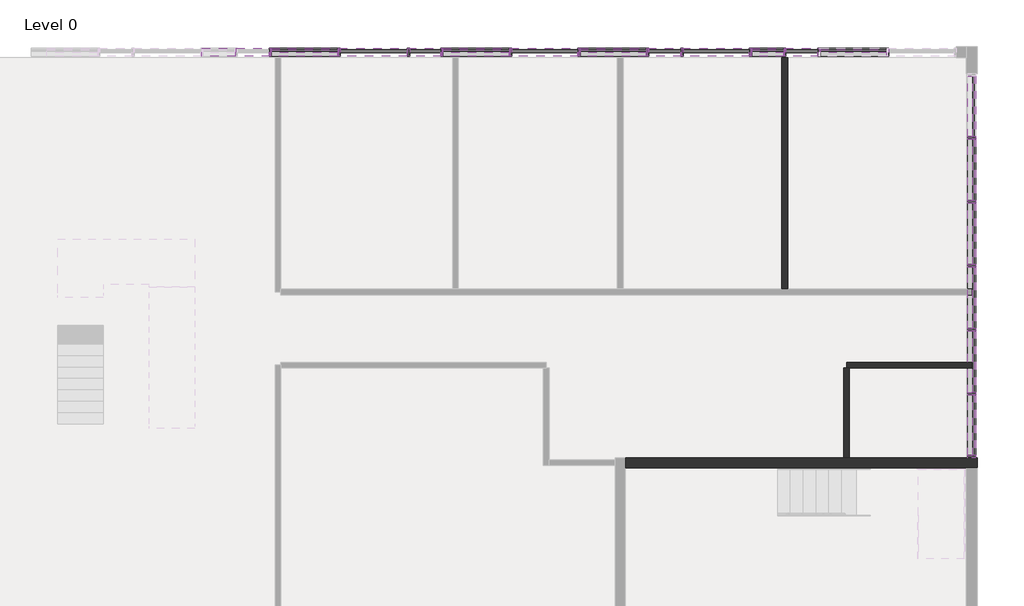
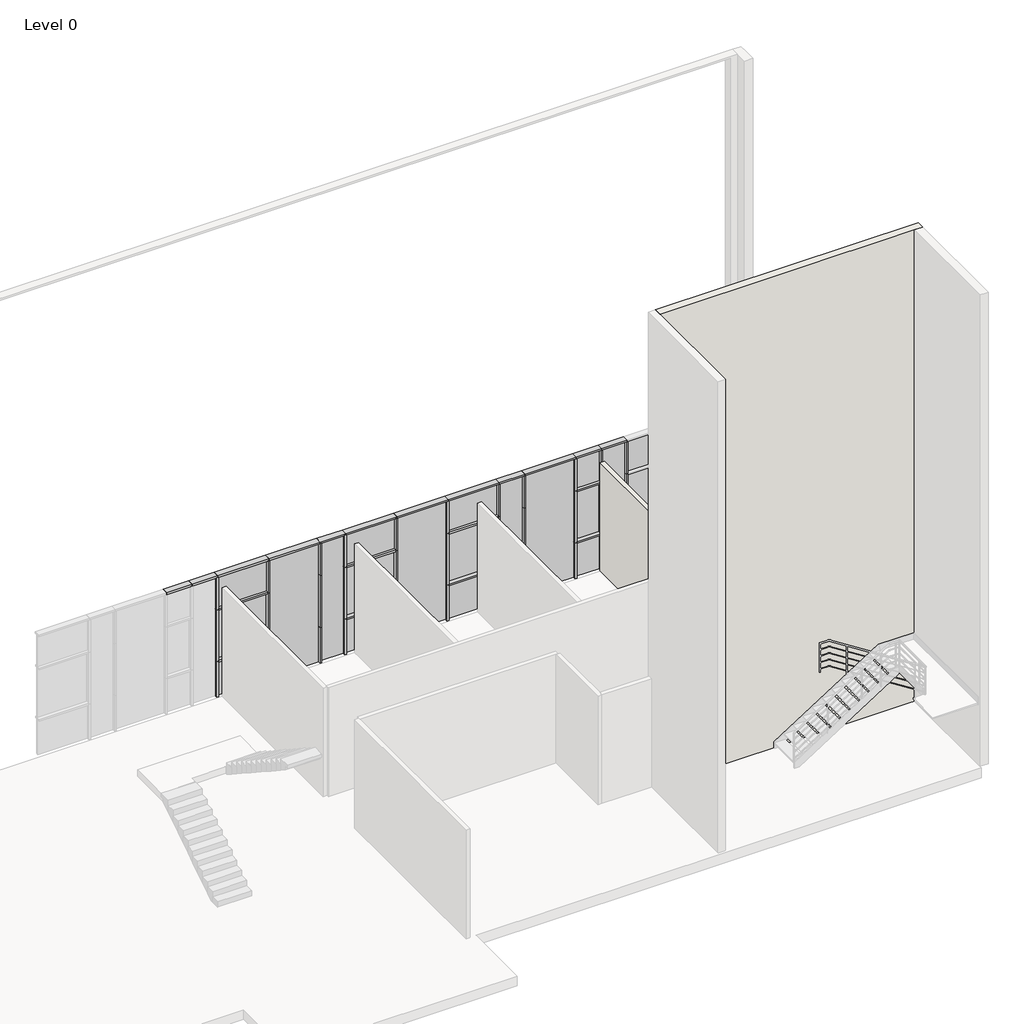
# One storey, part 7 of 10: 86 members, 33 plates, 4 walls.
"""IFC4 building model written with IfcOpenShell, lengths in millimetres."""

from ifc_helpers import new_model, si_unit, origin, origin_with_axes, place, context, project, spatial, polyline, outline, extrude, faceted_brep, transform, mapped, element, save
from components import rectangular_mullion_50x180mm_27940352, rectangular_mullion_50x180mm_f781141c, rectangular_mullion_50x180mm_fd91253e, rectangular_mullion_50x180mm_cfc9efda, rectangular_mullion_50x180mm_c30fec06, rectangular_mullion_50x180mm_55b63a96, rectangular_mullion_50x180mm_7153291d, rectangular_mullion_50x180mm_95299f7d, rectangular_mullion_50x180mm_f19e9633, rectangular_mullion_50x180mm_b6846536, rectangular_mullion_50x180mm_cd79a6a2, rectangular_mullion_50x180mm_b21090a6, rectangular_mullion_50x180mm_0f748c27, rectangular_mullion_50x180mm_51ec013b, rectangular_mullion_50x180mm_35a8cdd2, rectangular_mullion_50x180mm_f4f83200, rectangular_mullion_50x180mm_3158579c, rectangular_mullion_50x180mm_138657df, system_panel_black_panel_9c91f909, system_panel_black_panel_9e4711d2, system_panel_dark_grey_panel_1d6e0621, system_panel_dark_grey_panel_c47644bc, system_panel_glazed_dd63f223, system_panel_glazed_4915e1a0, system_panel_glazed_382bff3c, system_panel_glazed_04d9b068, system_panel_glazed_c834e0ad, system_panel_glazed_c24251bb, system_panel_white_panel_6a64f577, system_panel_white_panel_a9ca731a, system_panel_white_panel_6c6c8c82, system_panel_white_panel_ff540c20

model = new_model("IFC4")

# Units and contexts
model_context = context("Model", 3, world=origin())
ifc_project = project(units=[si_unit("LENGTHUNIT", "METRE", prefix="MILLI")], contexts=[model_context])

# Site, building, storey
site = spatial("IfcSite", under=ifc_project)
building = spatial("IfcBuilding", under=site)
storey = spatial("IfcBuildingStorey", under=building, Name="Level 0", Elevation=0.0)

# Members
placement = place(None, origin())
rectangular_mullion_50x180mm_shape = rectangular_mullion_50x180mm_27940352(model_context)
element("IfcMember", 1, ObjectType="Rectangular Mullion : 50x180mm", at=placement, inside=storey, context=model_context, shape_type="MappedRepresentation", body=[
    mapped(rectangular_mullion_50x180mm_shape, transform((37693.2942367, 9132.4946591, 0.0), x_axis=(1.0, 0.0, 0.0), y_axis=(0.0, -1.0, 0.0), z_axis=(0.0, 0.0, -1.0))),
])
element("IfcMember", 2, ObjectType="Rectangular Mullion : 50x180mm", at=placement, inside=storey, context=model_context, shape_type="MappedRepresentation", body=[
    mapped(rectangular_mullion_50x180mm_shape, transform((36193.2942367, 9132.4946591, 0.0), x_axis=(1.0, 0.0, 0.0), y_axis=(0.0, -1.0, 0.0), z_axis=(0.0, 0.0, -1.0))),
])
element("IfcMember", 3, ObjectType="Rectangular Mullion : 50x180mm", at=placement, inside=storey, context=model_context, shape_type="MappedRepresentation", body=[
    mapped(rectangular_mullion_50x180mm_shape, transform((35443.2942367, 9132.4946591, 0.0), x_axis=(1.0, 0.0, 0.0), y_axis=(0.0, -1.0, 0.0), z_axis=(0.0, 0.0, -1.0))),
])
element("IfcMember", 4, ObjectType="Rectangular Mullion : 50x180mm", at=placement, inside=storey, context=model_context, shape_type="MappedRepresentation", body=[
    mapped(rectangular_mullion_50x180mm_shape, transform((34693.2942367, 9132.4946591, 0.0), x_axis=(1.0, 0.0, 0.0), y_axis=(0.0, -1.0, 0.0), z_axis=(0.0, 0.0, -1.0))),
])
element("IfcMember", 5, ObjectType="Rectangular Mullion : 50x180mm", at=placement, inside=storey, context=model_context, shape_type="MappedRepresentation", body=[
    mapped(rectangular_mullion_50x180mm_shape, transform((32443.2942367, 9132.4946591, 0.0), x_axis=(1.0, 0.0, 0.0), y_axis=(0.0, -1.0, 0.0), z_axis=(0.0, 0.0, -1.0))),
])
element("IfcMember", 6, ObjectType="Rectangular Mullion : 50x180mm", at=placement, inside=storey, context=model_context, shape_type="MappedRepresentation", body=[
    mapped(rectangular_mullion_50x180mm_shape, transform((30943.2942367, 9132.4946591, 0.0), x_axis=(1.0, 0.0, 0.0), y_axis=(0.0, -1.0, 0.0), z_axis=(0.0, 0.0, -1.0))),
])
element("IfcMember", 7, ObjectType="Rectangular Mullion : 50x180mm", at=placement, inside=storey, context=model_context, shape_type="MappedRepresentation", body=[
    mapped(rectangular_mullion_50x180mm_shape, transform((27943.2942367, 9132.4946591, 0.0), x_axis=(1.0, 0.0, 0.0), y_axis=(0.0, -1.0, 0.0), z_axis=(0.0, 0.0, -1.0))),
])
element("IfcMember", 8, ObjectType="Rectangular Mullion : 50x180mm", at=placement, inside=storey, context=model_context, shape_type="MappedRepresentation", body=[
    mapped(rectangular_mullion_50x180mm_shape, transform((29443.2942367, 9132.4946591, 0.0), x_axis=(1.0, 0.0, 0.0), y_axis=(0.0, -1.0, 0.0), z_axis=(0.0, 0.0, -1.0))),
])
element("IfcMember", 9, ObjectType="Rectangular Mullion : 50x180mm", at=placement, inside=storey, context=model_context, shape_type="MappedRepresentation", body=[
    mapped(rectangular_mullion_50x180mm_shape, transform((25693.2942367, 9132.4946591, 0.0), x_axis=(1.0, 0.0, 0.0), y_axis=(0.0, -1.0, 0.0), z_axis=(0.0, 0.0, -1.0))),
])
element("IfcMember", 10, ObjectType="Rectangular Mullion : 50x180mm", at=placement, inside=storey, context=model_context, shape_type="MappedRepresentation", body=[
    mapped(rectangular_mullion_50x180mm_shape, transform((24193.2942367, 9132.4946591, 0.0), x_axis=(1.0, 0.0, 0.0), y_axis=(0.0, -1.0, 0.0), z_axis=(0.0, 0.0, -1.0))),
])
element("IfcMember", 11, ObjectType="Rectangular Mullion : 50x180mm", at=placement, inside=storey, context=model_context, shape_type="MappedRepresentation", body=[
    mapped(rectangular_mullion_50x180mm_shape, transform((33193.2942367, 9132.4946591, 0.0), x_axis=(1.0, 0.0, 0.0), y_axis=(0.0, -1.0, 0.0), z_axis=(0.0, 0.0, -1.0))),
])
rectangular_mullion_50x180mm_2_shape = rectangular_mullion_50x180mm_f781141c(model_context)
element("IfcMember", 12, ObjectType="Rectangular Mullion : 50x180mm", at=placement, inside=storey, context=model_context, shape_type="MappedRepresentation", body=[
    mapped(rectangular_mullion_50x180mm_2_shape, transform((27943.2942367, 9132.4946591, 1100.0), x_axis=(1.0, 0.0, 0.0), y_axis=(0.0, -1.0, 0.0), z_axis=(0.0, 0.0, -1.0))),
])
element("IfcMember", 13, ObjectType="Rectangular Mullion : 50x180mm", at=placement, inside=storey, context=model_context, shape_type="MappedRepresentation", body=[
    mapped(rectangular_mullion_50x180mm_2_shape, transform((29443.2942367, 9132.4946591, 1100.0), x_axis=(1.0, 0.0, 0.0), y_axis=(0.0, -1.0, 0.0), z_axis=(0.0, 0.0, -1.0))),
])
element("IfcMember", 14, ObjectType="Rectangular Mullion : 50x180mm", at=placement, inside=storey, context=model_context, shape_type="MappedRepresentation", body=[
    mapped(rectangular_mullion_50x180mm_2_shape, transform((30943.2942367, 9132.4946591, 1100.0), x_axis=(1.0, 0.0, 0.0), y_axis=(0.0, -1.0, 0.0), z_axis=(0.0, 0.0, -1.0))),
])
element("IfcMember", 15, ObjectType="Rectangular Mullion : 50x180mm", at=placement, inside=storey, context=model_context, shape_type="MappedRepresentation", body=[
    mapped(rectangular_mullion_50x180mm_2_shape, transform((32443.2942367, 9132.4946591, 1100.0), x_axis=(1.0, 0.0, 0.0), y_axis=(0.0, -1.0, 0.0), z_axis=(0.0, 0.0, -1.0))),
])
element("IfcMember", 16, ObjectType="Rectangular Mullion : 50x180mm", at=placement, inside=storey, context=model_context, shape_type="MappedRepresentation", body=[
    mapped(rectangular_mullion_50x180mm_2_shape, transform((34693.2942367, 9132.4946591, 1100.0), x_axis=(1.0, 0.0, 0.0), y_axis=(0.0, -1.0, 0.0), z_axis=(0.0, 0.0, -1.0))),
])
element("IfcMember", 17, ObjectType="Rectangular Mullion : 50x180mm", at=placement, inside=storey, context=model_context, shape_type="MappedRepresentation", body=[
    mapped(rectangular_mullion_50x180mm_2_shape, transform((35443.2942367, 9132.4946591, 1100.0), x_axis=(1.0, 0.0, 0.0), y_axis=(0.0, -1.0, 0.0), z_axis=(0.0, 0.0, -1.0))),
])
element("IfcMember", 18, ObjectType="Rectangular Mullion : 50x180mm", at=placement, inside=storey, context=model_context, shape_type="MappedRepresentation", body=[
    mapped(rectangular_mullion_50x180mm_2_shape, transform((36193.2942367, 9132.4946591, 1100.0), x_axis=(1.0, 0.0, 0.0), y_axis=(0.0, -1.0, 0.0), z_axis=(0.0, 0.0, -1.0))),
])
element("IfcMember", 19, ObjectType="Rectangular Mullion : 50x180mm", at=placement, inside=storey, context=model_context, shape_type="MappedRepresentation", body=[
    mapped(rectangular_mullion_50x180mm_2_shape, transform((37693.2942367, 9132.4946591, 1100.0), x_axis=(1.0, 0.0, 0.0), y_axis=(0.0, -1.0, 0.0), z_axis=(0.0, 0.0, -1.0))),
])
element("IfcMember", 20, ObjectType="Rectangular Mullion : 50x180mm", at=placement, inside=storey, context=model_context, shape_type="MappedRepresentation", body=[
    mapped(rectangular_mullion_50x180mm_2_shape, transform((24193.2942367, 9132.4946591, 1100.0), x_axis=(1.0, 0.0, 0.0), y_axis=(0.0, -1.0, 0.0), z_axis=(0.0, 0.0, -1.0))),
])
element("IfcMember", 21, ObjectType="Rectangular Mullion : 50x180mm", at=placement, inside=storey, context=model_context, shape_type="MappedRepresentation", body=[
    mapped(rectangular_mullion_50x180mm_2_shape, transform((25693.2942367, 9132.4946591, 1100.0), x_axis=(1.0, 0.0, 0.0), y_axis=(0.0, -1.0, 0.0), z_axis=(0.0, 0.0, -1.0))),
])
element("IfcMember", 22, ObjectType="Rectangular Mullion : 50x180mm", at=placement, inside=storey, context=model_context, shape_type="MappedRepresentation", body=[
    mapped(rectangular_mullion_50x180mm_2_shape, transform((33193.2942367, 9132.4946591, 1100.0), x_axis=(1.0, 0.0, 0.0), y_axis=(0.0, -1.0, 0.0), z_axis=(0.0, 0.0, -1.0))),
])
rectangular_mullion_50x180mm_3_shape = rectangular_mullion_50x180mm_fd91253e(model_context)
element("IfcMember", 23, ObjectType="Rectangular Mullion : 50x180mm", at=placement, inside=storey, context=model_context, shape_type="MappedRepresentation", body=[
    mapped(rectangular_mullion_50x180mm_3_shape, transform((37668.2942367, 9132.4946591, 1100.0), x_axis=(0.0, 0.0, 1.0), y_axis=(0.0, -1.0, 0.0), z_axis=(1.0, 0.0, 0.0))),
])
element("IfcMember", 24, ObjectType="Rectangular Mullion : 50x180mm", at=placement, inside=storey, context=model_context, shape_type="MappedRepresentation", body=[
    mapped(rectangular_mullion_50x180mm_3_shape, transform((29418.2942367, 9132.4946591, 1100.0), x_axis=(0.0, 0.0, 1.0), y_axis=(0.0, -1.0, 0.0), z_axis=(1.0, 0.0, 0.0))),
])
element("IfcMember", 25, ObjectType="Rectangular Mullion : 50x180mm", at=placement, inside=storey, context=model_context, shape_type="MappedRepresentation", body=[
    mapped(rectangular_mullion_50x180mm_3_shape, transform((32418.2942367, 9132.4946591, 1100.0), x_axis=(0.0, 0.0, 1.0), y_axis=(0.0, -1.0, 0.0), z_axis=(1.0, 0.0, 0.0))),
])
element("IfcMember", 26, ObjectType="Rectangular Mullion : 50x180mm", at=placement, inside=storey, context=model_context, shape_type="MappedRepresentation", body=[
    mapped(rectangular_mullion_50x180mm_3_shape, transform((29418.2942367, 9132.4946591, 2700.0), x_axis=(0.0, 0.0, 1.0), y_axis=(0.0, -1.0, 0.0), z_axis=(1.0, 0.0, 0.0))),
])
element("IfcMember", 27, ObjectType="Rectangular Mullion : 50x180mm", at=placement, inside=storey, context=model_context, shape_type="MappedRepresentation", body=[
    mapped(rectangular_mullion_50x180mm_3_shape, transform((32418.2942367, 9132.4946591, 2700.0), x_axis=(0.0, 0.0, 1.0), y_axis=(0.0, -1.0, 0.0), z_axis=(1.0, 0.0, 0.0))),
])
element("IfcMember", 28, ObjectType="Rectangular Mullion : 50x180mm", at=placement, inside=storey, context=model_context, shape_type="MappedRepresentation", body=[
    mapped(rectangular_mullion_50x180mm_3_shape, transform((25668.2942367, 9132.4946591, 1100.0), x_axis=(0.0, 0.0, 1.0), y_axis=(0.0, -1.0, 0.0), z_axis=(1.0, 0.0, 0.0))),
])
element("IfcMember", 29, ObjectType="Rectangular Mullion : 50x180mm", at=placement, inside=storey, context=model_context, shape_type="MappedRepresentation", body=[
    mapped(rectangular_mullion_50x180mm_3_shape, transform((25668.2942367, 9132.4946591, 2700.0), x_axis=(0.0, 0.0, 1.0), y_axis=(0.0, -1.0, 0.0), z_axis=(1.0, 0.0, 0.0))),
])
rectangular_mullion_50x180mm_4_shape = rectangular_mullion_50x180mm_cfc9efda(model_context)
element("IfcMember", 30, ObjectType="Rectangular Mullion : 50x180mm", at=placement, inside=storey, context=model_context, shape_type="MappedRepresentation", body=[
    mapped(rectangular_mullion_50x180mm_4_shape, transform((35418.2942367, 9132.4946591, 2700.0), x_axis=(0.0, 0.0, 1.0), y_axis=(0.0, -1.0, 0.0), z_axis=(1.0, 0.0, 0.0))),
])
element("IfcMember", 31, ObjectType="Rectangular Mullion : 50x180mm", at=placement, inside=storey, context=model_context, shape_type="MappedRepresentation", body=[
    mapped(rectangular_mullion_50x180mm_4_shape, transform((35418.2942367, 9132.4946591, 1100.0), x_axis=(0.0, 0.0, 1.0), y_axis=(0.0, -1.0, 0.0), z_axis=(1.0, 0.0, 0.0))),
])
rectangular_mullion_50x180mm_5_shape = rectangular_mullion_50x180mm_c30fec06(model_context)
element("IfcMember", 32, ObjectType="Rectangular Mullion : 50x180mm", at=placement, inside=storey, context=model_context, shape_type="MappedRepresentation", body=[
    mapped(rectangular_mullion_50x180mm_5_shape, transform((29443.2942367, 9132.4946591, 3750.0), x_axis=(0.0, 0.0, 1.0), y_axis=(0.0, -1.0, 0.0), z_axis=(1.0, 0.0, 0.0))),
])
element("IfcMember", 33, ObjectType="Rectangular Mullion : 50x180mm", at=placement, inside=storey, context=model_context, shape_type="MappedRepresentation", body=[
    mapped(rectangular_mullion_50x180mm_5_shape, transform((30943.2942367, 9132.4946591, 3750.0), x_axis=(0.0, 0.0, 1.0), y_axis=(0.0, -1.0, 0.0), z_axis=(1.0, 0.0, 0.0))),
])
element("IfcMember", 34, ObjectType="Rectangular Mullion : 50x180mm", at=placement, inside=storey, context=model_context, shape_type="MappedRepresentation", body=[
    mapped(rectangular_mullion_50x180mm_5_shape, transform((32443.2942367, 9132.4946591, 3750.0), x_axis=(0.0, 0.0, 1.0), y_axis=(0.0, -1.0, 0.0), z_axis=(1.0, 0.0, 0.0))),
])
element("IfcMember", 35, ObjectType="Rectangular Mullion : 50x180mm", at=placement, inside=storey, context=model_context, shape_type="MappedRepresentation", body=[
    mapped(rectangular_mullion_50x180mm_5_shape, transform((34693.2942367, 9132.4946591, 3750.0), x_axis=(0.0, 0.0, 1.0), y_axis=(0.0, -1.0, 0.0), z_axis=(1.0, 0.0, 0.0))),
])
element("IfcMember", 36, ObjectType="Rectangular Mullion : 50x180mm", at=placement, inside=storey, context=model_context, shape_type="MappedRepresentation", body=[
    mapped(rectangular_mullion_50x180mm_5_shape, transform((25693.2942367, 9132.4946591, 3750.0), x_axis=(0.0, 0.0, 1.0), y_axis=(0.0, -1.0, 0.0), z_axis=(1.0, 0.0, 0.0))),
])
rectangular_mullion_50x180mm_6_shape = rectangular_mullion_50x180mm_55b63a96(model_context)
element("IfcMember", 37, ObjectType="Rectangular Mullion : 50x180mm", at=placement, inside=storey, context=model_context, shape_type="MappedRepresentation", body=[
    mapped(rectangular_mullion_50x180mm_6_shape, transform((27943.2942367, 9132.4946591, 3750.0), x_axis=(0.0, 0.0, 1.0), y_axis=(0.0, -1.0, 0.0), z_axis=(1.0, 0.0, 0.0))),
])
element("IfcMember", 38, ObjectType="Rectangular Mullion : 50x180mm", at=placement, inside=storey, context=model_context, shape_type="MappedRepresentation", body=[
    mapped(rectangular_mullion_50x180mm_5_shape, transform((27193.2942367, 9132.4946591, 3750.0), x_axis=(0.0, 0.0, 1.0), y_axis=(0.0, -1.0, 0.0), z_axis=(1.0, 0.0, 0.0))),
])
element("IfcMember", 39, ObjectType="Rectangular Mullion : 50x180mm", at=placement, inside=storey, context=model_context, shape_type="MappedRepresentation", body=[
    mapped(rectangular_mullion_50x180mm_6_shape, transform((33193.2942367, 9132.4946591, 3750.0), x_axis=(0.0, 0.0, 1.0), y_axis=(0.0, -1.0, 0.0), z_axis=(1.0, 0.0, 0.0))),
])
element("IfcMember", 40, ObjectType="Rectangular Mullion : 50x180mm", at=placement, inside=storey, context=model_context, shape_type="MappedRepresentation", body=[
    mapped(rectangular_mullion_50x180mm_6_shape, transform((35443.2942367, 9132.4946591, 3750.0), x_axis=(0.0, 0.0, 1.0), y_axis=(0.0, -1.0, 0.0), z_axis=(1.0, 0.0, 0.0))),
])
element("IfcMember", 41, ObjectType="Rectangular Mullion : 50x180mm", at=placement, inside=storey, context=model_context, shape_type="MappedRepresentation", body=[
    mapped(rectangular_mullion_50x180mm_6_shape, transform((36193.2942367, 9132.4946591, 3750.0), x_axis=(0.0, 0.0, 1.0), y_axis=(0.0, -1.0, 0.0), z_axis=(1.0, 0.0, 0.0))),
])
element("IfcMember", 42, ObjectType="Rectangular Mullion : 50x180mm", at=placement, inside=storey, context=model_context, shape_type="MappedRepresentation", body=[
    mapped(rectangular_mullion_50x180mm_6_shape, transform((23443.2942367, 9132.4946591, 3750.0), x_axis=(0.0, 0.0, 1.0), y_axis=(0.0, -1.0, 0.0), z_axis=(1.0, 0.0, 0.0))),
])
element("IfcMember", 43, ObjectType="Rectangular Mullion : 50x180mm", at=placement, inside=storey, context=model_context, shape_type="MappedRepresentation", body=[
    mapped(rectangular_mullion_50x180mm_6_shape, transform((24193.2942367, 9132.4946591, 3750.0), x_axis=(0.0, 0.0, 1.0), y_axis=(0.0, -1.0, 0.0), z_axis=(1.0, 0.0, 0.0))),
])
rectangular_mullion_50x180mm_7_shape = rectangular_mullion_50x180mm_7153291d(model_context)
element("IfcMember", 44, ObjectType="Rectangular Mullion : 50x180mm", at=placement, inside=storey, context=model_context, shape_type="MappedRepresentation", body=[
    mapped(rectangular_mullion_50x180mm_7_shape, transform((27193.2942367, 9132.4946591, 1100.0), x_axis=(-1.0, 0.0, 0.0), y_axis=(0.0, -1.0, 0.0), z_axis=(0.0, 0.0, 1.0))),
])
rectangular_mullion_50x180mm_8_shape = rectangular_mullion_50x180mm_95299f7d(model_context)
element("IfcMember", 45, ObjectType="Rectangular Mullion : 50x180mm", at=placement, inside=storey, context=model_context, shape_type="MappedRepresentation", body=[
    mapped(rectangular_mullion_50x180mm_8_shape, transform((27193.2942367, 9132.4946591, 2700.0), x_axis=(-1.0, 0.0, 0.0), y_axis=(0.0, -1.0, 0.0), z_axis=(0.0, 0.0, 1.0))),
])
rectangular_mullion_50x180mm_9_shape = rectangular_mullion_50x180mm_f19e9633(model_context)
element("IfcMember", 46, ObjectType="Rectangular Mullion : 50x180mm", at=placement, inside=storey, context=model_context, shape_type="MappedRepresentation", body=[
    mapped(rectangular_mullion_50x180mm_9_shape, transform((34693.2942367, 9132.4946591, 2700.0), x_axis=(1.0, 0.0, 0.0), y_axis=(0.0, -1.0, 0.0), z_axis=(0.0, 0.0, -1.0))),
])
element("IfcMember", 47, ObjectType="Rectangular Mullion : 50x180mm", at=placement, inside=storey, context=model_context, shape_type="MappedRepresentation", body=[
    mapped(rectangular_mullion_50x180mm_9_shape, transform((35443.2942367, 9132.4946591, 2700.0), x_axis=(1.0, 0.0, 0.0), y_axis=(0.0, -1.0, 0.0), z_axis=(0.0, 0.0, -1.0))),
])
element("IfcMember", 48, ObjectType="Rectangular Mullion : 50x180mm", at=placement, inside=storey, context=model_context, shape_type="MappedRepresentation", body=[
    mapped(rectangular_mullion_50x180mm_9_shape, transform((36193.2942367, 9132.4946591, 2700.0), x_axis=(1.0, 0.0, 0.0), y_axis=(0.0, -1.0, 0.0), z_axis=(0.0, 0.0, -1.0))),
])
element("IfcMember", 49, ObjectType="Rectangular Mullion : 50x180mm", at=placement, inside=storey, context=model_context, shape_type="MappedRepresentation", body=[
    mapped(rectangular_mullion_50x180mm_9_shape, transform((37693.2942367, 9132.4946591, 2700.0), x_axis=(1.0, 0.0, 0.0), y_axis=(0.0, -1.0, 0.0), z_axis=(0.0, 0.0, -1.0))),
])
element("IfcMember", 50, ObjectType="Rectangular Mullion : 50x180mm", at=placement, inside=storey, context=model_context, shape_type="MappedRepresentation", body=[
    mapped(rectangular_mullion_50x180mm_9_shape, transform((32443.2942367, 9132.4946591, 2700.0), x_axis=(1.0, 0.0, 0.0), y_axis=(0.0, -1.0, 0.0), z_axis=(0.0, 0.0, -1.0))),
])
element("IfcMember", 51, ObjectType="Rectangular Mullion : 50x180mm", at=placement, inside=storey, context=model_context, shape_type="MappedRepresentation", body=[
    mapped(rectangular_mullion_50x180mm_9_shape, transform((30943.2942367, 9132.4946591, 2700.0), x_axis=(1.0, 0.0, 0.0), y_axis=(0.0, -1.0, 0.0), z_axis=(0.0, 0.0, -1.0))),
])
element("IfcMember", 52, ObjectType="Rectangular Mullion : 50x180mm", at=placement, inside=storey, context=model_context, shape_type="MappedRepresentation", body=[
    mapped(rectangular_mullion_50x180mm_9_shape, transform((27943.2942367, 9132.4946591, 2700.0), x_axis=(1.0, 0.0, 0.0), y_axis=(0.0, -1.0, 0.0), z_axis=(0.0, 0.0, -1.0))),
])
element("IfcMember", 53, ObjectType="Rectangular Mullion : 50x180mm", at=placement, inside=storey, context=model_context, shape_type="MappedRepresentation", body=[
    mapped(rectangular_mullion_50x180mm_9_shape, transform((29443.2942367, 9132.4946591, 2700.0), x_axis=(1.0, 0.0, 0.0), y_axis=(0.0, -1.0, 0.0), z_axis=(0.0, 0.0, -1.0))),
])
element("IfcMember", 54, ObjectType="Rectangular Mullion : 50x180mm", at=placement, inside=storey, context=model_context, shape_type="MappedRepresentation", body=[
    mapped(rectangular_mullion_50x180mm_9_shape, transform((24193.2942367, 9132.4946591, 2700.0), x_axis=(1.0, 0.0, 0.0), y_axis=(0.0, -1.0, 0.0), z_axis=(0.0, 0.0, -1.0))),
])
element("IfcMember", 55, ObjectType="Rectangular Mullion : 50x180mm", at=placement, inside=storey, context=model_context, shape_type="MappedRepresentation", body=[
    mapped(rectangular_mullion_50x180mm_9_shape, transform((25693.2942367, 9132.4946591, 2700.0), x_axis=(1.0, 0.0, 0.0), y_axis=(0.0, -1.0, 0.0), z_axis=(0.0, 0.0, -1.0))),
])
element("IfcMember", 56, ObjectType="Rectangular Mullion : 50x180mm", at=placement, inside=storey, context=model_context, shape_type="MappedRepresentation", body=[
    mapped(rectangular_mullion_50x180mm_9_shape, transform((33193.2942367, 9132.4946591, 2700.0), x_axis=(1.0, 0.0, 0.0), y_axis=(0.0, -1.0, 0.0), z_axis=(0.0, 0.0, -1.0))),
])
rectangular_mullion_50x180mm_10_shape = rectangular_mullion_50x180mm_b6846536(model_context)
element("IfcMember", 57, ObjectType="Rectangular Mullion : 50x180mm", at=placement, inside=storey, context=model_context, shape_type="MappedRepresentation", body=[
    mapped(rectangular_mullion_50x180mm_10_shape, transform((27193.2942367, 9132.4946591, 3700.0), x_axis=(-1.0, 0.0, 0.0), y_axis=(0.0, -1.0, 0.0), z_axis=(0.0, 0.0, 1.0))),
])
rectangular_mullion_50x180mm_11_shape = rectangular_mullion_50x180mm_cd79a6a2(model_context)
element("IfcMember", 58, ObjectType="Rectangular Mullion : 50x180mm", at=placement, inside=storey, context=model_context, shape_type="MappedRepresentation", body=[
    mapped(rectangular_mullion_50x180mm_11_shape, transform((39530.7942367, 7257.3793073, 150.0), x_axis=(0.0, -1.0, 0.0), y_axis=(-1.0, 0.0, 0.0), z_axis=(0.0, 0.0, -1.0))),
])
element("IfcMember", 59, ObjectType="Rectangular Mullion : 50x180mm", at=placement, inside=storey, context=model_context, shape_type="MappedRepresentation", body=[
    mapped(rectangular_mullion_50x180mm_11_shape, transform((39530.7942367, 5857.2639557, 150.0), x_axis=(0.0, -1.0, 0.0), y_axis=(-1.0, 0.0, 0.0), z_axis=(0.0, 0.0, -1.0))),
])
element("IfcMember", 60, ObjectType="Rectangular Mullion : 50x180mm", at=placement, inside=storey, context=model_context, shape_type="MappedRepresentation", body=[
    mapped(rectangular_mullion_50x180mm_11_shape, transform((39530.7942367, 4457.1486042, 150.0), x_axis=(0.0, -1.0, 0.0), y_axis=(-1.0, 0.0, 0.0), z_axis=(0.0, 0.0, -1.0))),
])
element("IfcMember", 61, ObjectType="Rectangular Mullion : 50x180mm", at=placement, inside=storey, context=model_context, shape_type="MappedRepresentation", body=[
    mapped(rectangular_mullion_50x180mm_11_shape, transform((39530.7942367, 3057.0332526, 150.0), x_axis=(0.0, -1.0, 0.0), y_axis=(-1.0, 0.0, 0.0), z_axis=(0.0, 0.0, -1.0))),
])
element("IfcMember", 62, ObjectType="Rectangular Mullion : 50x180mm", at=placement, inside=storey, context=model_context, shape_type="MappedRepresentation", body=[
    mapped(rectangular_mullion_50x180mm_11_shape, transform((39530.7942367, 1656.917901, 150.0), x_axis=(0.0, -1.0, 0.0), y_axis=(-1.0, 0.0, 0.0), z_axis=(0.0, 0.0, -1.0))),
])
rectangular_mullion_50x180mm_12_shape = rectangular_mullion_50x180mm_b21090a6(model_context)
element("IfcMember", 63, ObjectType="Rectangular Mullion : 50x180mm", at=placement, inside=storey, context=model_context, shape_type="MappedRepresentation", body=[
    mapped(rectangular_mullion_50x180mm_12_shape, transform((39530.7942367, 256.8025492, 150.0), x_axis=(0.0, -1.0, 0.0), y_axis=(-1.0, 0.0, 0.0), z_axis=(0.0, 0.0, -1.0))),
])
rectangular_mullion_50x180mm_13_shape = rectangular_mullion_50x180mm_0f748c27(model_context)
element("IfcMember", 64, ObjectType="Rectangular Mullion : 50x180mm", at=placement, inside=storey, context=model_context, shape_type="MappedRepresentation", body=[
    mapped(rectangular_mullion_50x180mm_13_shape, transform((39530.7942367, 306.8025492, 3450.0), x_axis=(0.0, 0.0, 1.0), y_axis=(-1.0, 0.0, 0.0), z_axis=(0.0, -1.0, 0.0))),
])
element("IfcMember", 65, ObjectType="Rectangular Mullion : 50x180mm", at=placement, inside=storey, context=model_context, shape_type="MappedRepresentation", body=[
    mapped(rectangular_mullion_50x180mm_13_shape, transform((39530.7942367, 7282.3793073, 3450.0), x_axis=(0.0, 0.0, 1.0), y_axis=(-1.0, 0.0, 0.0), z_axis=(0.0, -1.0, 0.0))),
])
rectangular_mullion_50x180mm_14_shape = rectangular_mullion_50x180mm_51ec013b(model_context)
element("IfcMember", 66, ObjectType="Rectangular Mullion : 50x180mm", at=placement, inside=storey, context=model_context, shape_type="MappedRepresentation", body=[
    mapped(rectangular_mullion_50x180mm_14_shape, transform((39530.7942367, 5882.2639557, 3450.0), x_axis=(0.0, 0.0, 1.0), y_axis=(-1.0, 0.0, 0.0), z_axis=(0.0, -1.0, 0.0))),
])
element("IfcMember", 67, ObjectType="Rectangular Mullion : 50x180mm", at=placement, inside=storey, context=model_context, shape_type="MappedRepresentation", body=[
    mapped(rectangular_mullion_50x180mm_14_shape, transform((39530.7942367, 4482.1486042, 3450.0), x_axis=(0.0, 0.0, 1.0), y_axis=(-1.0, 0.0, 0.0), z_axis=(0.0, -1.0, 0.0))),
])
element("IfcMember", 68, ObjectType="Rectangular Mullion : 50x180mm", at=placement, inside=storey, context=model_context, shape_type="MappedRepresentation", body=[
    mapped(rectangular_mullion_50x180mm_14_shape, transform((39530.7942367, 3082.0332526, 3450.0), x_axis=(0.0, 0.0, 1.0), y_axis=(-1.0, 0.0, 0.0), z_axis=(0.0, -1.0, 0.0))),
])
element("IfcMember", 69, ObjectType="Rectangular Mullion : 50x180mm", at=placement, inside=storey, context=model_context, shape_type="MappedRepresentation", body=[
    mapped(rectangular_mullion_50x180mm_14_shape, transform((39530.7942367, 1681.917901, 3450.0), x_axis=(0.0, 0.0, 1.0), y_axis=(-1.0, 0.0, 0.0), z_axis=(0.0, -1.0, 0.0))),
])
element("IfcMember", 70, ObjectType="Rectangular Mullion : 50x180mm", at=placement, inside=storey, context=model_context, shape_type="MappedRepresentation", body=[
    mapped(rectangular_mullion_50x180mm_13_shape, transform((39530.7942367, 1631.917901, 150.0), x_axis=(0.0, 0.0, -1.0), y_axis=(-1.0, 0.0, 0.0), z_axis=(0.0, 1.0, 0.0))),
])
element("IfcMember", 71, ObjectType="Rectangular Mullion : 50x180mm", at=placement, inside=storey, context=model_context, shape_type="MappedRepresentation", body=[
    mapped(rectangular_mullion_50x180mm_14_shape, transform((39530.7942367, 7232.3793073, 150.0), x_axis=(0.0, 0.0, -1.0), y_axis=(-1.0, 0.0, 0.0), z_axis=(0.0, 1.0, 0.0))),
])
element("IfcMember", 72, ObjectType="Rectangular Mullion : 50x180mm", at=placement, inside=storey, context=model_context, shape_type="MappedRepresentation", body=[
    mapped(rectangular_mullion_50x180mm_14_shape, transform((39530.7942367, 5832.2639557, 150.0), x_axis=(0.0, 0.0, -1.0), y_axis=(-1.0, 0.0, 0.0), z_axis=(0.0, 1.0, 0.0))),
])
element("IfcMember", 73, ObjectType="Rectangular Mullion : 50x180mm", at=placement, inside=storey, context=model_context, shape_type="MappedRepresentation", body=[
    mapped(rectangular_mullion_50x180mm_14_shape, transform((39530.7942367, 4432.1486042, 150.0), x_axis=(0.0, 0.0, -1.0), y_axis=(-1.0, 0.0, 0.0), z_axis=(0.0, 1.0, 0.0))),
])
element("IfcMember", 74, ObjectType="Rectangular Mullion : 50x180mm", at=placement, inside=storey, context=model_context, shape_type="MappedRepresentation", body=[
    mapped(rectangular_mullion_50x180mm_14_shape, transform((39530.7942367, 3032.0332526, 150.0), x_axis=(0.0, 0.0, -1.0), y_axis=(-1.0, 0.0, 0.0), z_axis=(0.0, 1.0, 0.0))),
])
rectangular_mullion_50x180mm_15_shape = rectangular_mullion_50x180mm_35a8cdd2(model_context)
element("IfcMember", 75, ObjectType="Rectangular Mullion : 50x180mm", at=placement, inside=storey, context=model_context, shape_type="MappedRepresentation", body=[
    mapped(rectangular_mullion_50x180mm_15_shape, transform((39530.7942367, 7282.3793073, 2550.0), x_axis=(0.0, 0.0, 1.0), y_axis=(-1.0, 0.0, 0.0), z_axis=(0.0, -1.0, 0.0))),
])
element("IfcMember", 76, ObjectType="Rectangular Mullion : 50x180mm", at=placement, inside=storey, context=model_context, shape_type="MappedRepresentation", body=[
    mapped(rectangular_mullion_50x180mm_15_shape, transform((39530.7942367, 306.8025492, 2550.0), x_axis=(0.0, 0.0, 1.0), y_axis=(-1.0, 0.0, 0.0), z_axis=(0.0, -1.0, 0.0))),
])
rectangular_mullion_50x180mm_16_shape = rectangular_mullion_50x180mm_f4f83200(model_context)
element("IfcMember", 77, ObjectType="Rectangular Mullion : 50x180mm", at=placement, inside=storey, context=model_context, shape_type="MappedRepresentation", body=[
    mapped(rectangular_mullion_50x180mm_16_shape, transform((39530.7942367, 5882.2639557, 2550.0), x_axis=(0.0, 0.0, 1.0), y_axis=(-1.0, 0.0, 0.0), z_axis=(0.0, -1.0, 0.0))),
])
element("IfcMember", 78, ObjectType="Rectangular Mullion : 50x180mm", at=placement, inside=storey, context=model_context, shape_type="MappedRepresentation", body=[
    mapped(rectangular_mullion_50x180mm_16_shape, transform((39530.7942367, 4482.1486042, 2550.0), x_axis=(0.0, 0.0, 1.0), y_axis=(-1.0, 0.0, 0.0), z_axis=(0.0, -1.0, 0.0))),
])
element("IfcMember", 79, ObjectType="Rectangular Mullion : 50x180mm", at=placement, inside=storey, context=model_context, shape_type="MappedRepresentation", body=[
    mapped(rectangular_mullion_50x180mm_16_shape, transform((39530.7942367, 3082.0332526, 2550.0), x_axis=(0.0, 0.0, 1.0), y_axis=(-1.0, 0.0, 0.0), z_axis=(0.0, -1.0, 0.0))),
])
element("IfcMember", 80, ObjectType="Rectangular Mullion : 50x180mm", at=placement, inside=storey, context=model_context, shape_type="MappedRepresentation", body=[
    mapped(rectangular_mullion_50x180mm_16_shape, transform((39530.7942367, 1681.917901, 2550.0), x_axis=(0.0, 0.0, 1.0), y_axis=(-1.0, 0.0, 0.0), z_axis=(0.0, -1.0, 0.0))),
])
rectangular_mullion_50x180mm_17_shape = rectangular_mullion_50x180mm_3158579c(model_context)
element("IfcMember", 81, ObjectType="Rectangular Mullion : 50x180mm", at=placement, inside=storey, context=model_context, shape_type="MappedRepresentation", body=[
    mapped(rectangular_mullion_50x180mm_17_shape, transform((39530.7942367, 7257.3793073, 2550.0), x_axis=(0.0, -1.0, 0.0), y_axis=(-1.0, 0.0, 0.0), z_axis=(0.0, 0.0, -1.0))),
])
element("IfcMember", 82, ObjectType="Rectangular Mullion : 50x180mm", at=placement, inside=storey, context=model_context, shape_type="MappedRepresentation", body=[
    mapped(rectangular_mullion_50x180mm_17_shape, transform((39530.7942367, 5857.2639557, 2550.0), x_axis=(0.0, -1.0, 0.0), y_axis=(-1.0, 0.0, 0.0), z_axis=(0.0, 0.0, -1.0))),
])
element("IfcMember", 83, ObjectType="Rectangular Mullion : 50x180mm", at=placement, inside=storey, context=model_context, shape_type="MappedRepresentation", body=[
    mapped(rectangular_mullion_50x180mm_17_shape, transform((39530.7942367, 4457.1486042, 2550.0), x_axis=(0.0, -1.0, 0.0), y_axis=(-1.0, 0.0, 0.0), z_axis=(0.0, 0.0, -1.0))),
])
element("IfcMember", 84, ObjectType="Rectangular Mullion : 50x180mm", at=placement, inside=storey, context=model_context, shape_type="MappedRepresentation", body=[
    mapped(rectangular_mullion_50x180mm_17_shape, transform((39530.7942367, 3057.0332526, 2550.0), x_axis=(0.0, -1.0, 0.0), y_axis=(-1.0, 0.0, 0.0), z_axis=(0.0, 0.0, -1.0))),
])
element("IfcMember", 85, ObjectType="Rectangular Mullion : 50x180mm", at=placement, inside=storey, context=model_context, shape_type="MappedRepresentation", body=[
    mapped(rectangular_mullion_50x180mm_17_shape, transform((39530.7942367, 1656.917901, 2550.0), x_axis=(0.0, -1.0, 0.0), y_axis=(-1.0, 0.0, 0.0), z_axis=(0.0, 0.0, -1.0))),
])
rectangular_mullion_50x180mm_18_shape = rectangular_mullion_50x180mm_138657df(model_context)
element("IfcMember", 86, ObjectType="Rectangular Mullion : 50x180mm", at=placement, inside=storey, context=model_context, shape_type="MappedRepresentation", body=[
    mapped(rectangular_mullion_50x180mm_18_shape, transform((39530.7942367, 256.8025492, 2550.0), x_axis=(0.0, -1.0, 0.0), y_axis=(-1.0, 0.0, 0.0), z_axis=(0.0, 0.0, -1.0))),
])

# Plates
system_panel_black_panel_shape = system_panel_black_panel_9c91f909(model_context)
element("IfcPlate", 87, ObjectType="System Panel : Black-Panel", at=placement, inside=storey, context=model_context, shape_type="MappedRepresentation", body=[
    mapped(system_panel_black_panel_shape, transform((27580.7942367, 9132.4946591, 0.0), x_axis=(1.0, 0.0, 0.0), y_axis=(0.0, 1.0, 0.0), z_axis=(0.0, 0.0, 1.0))),
])
system_panel_black_panel_2_shape = system_panel_black_panel_9e4711d2(model_context)
element("IfcPlate", 88, ObjectType="System Panel : Black-Panel", at=placement, inside=storey, context=model_context, shape_type="MappedRepresentation", body=[
    mapped(system_panel_black_panel_2_shape, transform((35818.2942367, 9132.4946591, 0.0), x_axis=(1.0, 0.0, 0.0), y_axis=(0.0, 1.0, 0.0), z_axis=(0.0, 0.0, 1.0))),
])
element("IfcPlate", 89, ObjectType="System Panel : Black-Panel", at=placement, inside=storey, context=model_context, shape_type="MappedRepresentation", body=[
    mapped(system_panel_black_panel_2_shape, transform((32818.2942367, 9132.4946591, 0.0), x_axis=(1.0, 0.0, 0.0), y_axis=(0.0, 1.0, 0.0), z_axis=(0.0, 0.0, 1.0))),
])
system_panel_dark_grey_panel_shape = system_panel_dark_grey_panel_1d6e0621(model_context)
element("IfcPlate", 90, ObjectType="System Panel : Dark Grey-Panel", at=placement, inside=storey, context=model_context, shape_type="MappedRepresentation", body=[
    mapped(system_panel_dark_grey_panel_shape, transform((33943.2942367, 9132.4946591, 0.0), x_axis=(1.0, 0.0, 0.0), y_axis=(0.0, 1.0, 0.0), z_axis=(0.0, 0.0, 1.0))),
])
element("IfcPlate", 91, ObjectType="System Panel : Dark Grey-Panel", at=placement, inside=storey, context=model_context, shape_type="MappedRepresentation", body=[
    mapped(system_panel_dark_grey_panel_shape, transform((30193.2942367, 9132.4946591, 0.0), x_axis=(1.0, 0.0, 0.0), y_axis=(0.0, 1.0, 0.0), z_axis=(0.0, 0.0, 1.0))),
])
system_panel_dark_grey_panel_2_shape = system_panel_dark_grey_panel_c47644bc(model_context)
element("IfcPlate", 92, ObjectType="System Panel : Dark Grey-Panel", at=placement, inside=storey, context=model_context, shape_type="MappedRepresentation", body=[
    mapped(system_panel_dark_grey_panel_2_shape, transform((26455.7942367, 9132.4946591, 0.0), x_axis=(1.0, 0.0, 0.0), y_axis=(0.0, 1.0, 0.0), z_axis=(0.0, 0.0, 1.0))),
])
system_panel_glazed_shape = system_panel_glazed_dd63f223(model_context)
element("IfcPlate", 93, ObjectType="System Panel : Glazed", at=placement, inside=storey, context=model_context, shape_type="MappedRepresentation", body=[
    mapped(system_panel_glazed_shape, transform((35068.2942367, 9132.4946591, 1125.0), x_axis=(1.0, 0.0, 0.0), y_axis=(0.0, 1.0, 0.0), z_axis=(0.0, 0.0, 1.0))),
])
system_panel_glazed_2_shape = system_panel_glazed_4915e1a0(model_context)
element("IfcPlate", 94, ObjectType="System Panel : Glazed", at=placement, inside=storey, context=model_context, shape_type="MappedRepresentation", body=[
    mapped(system_panel_glazed_2_shape, transform((36943.2942367, 9132.4946591, 1125.0), x_axis=(1.0, 0.0, 0.0), y_axis=(0.0, 1.0, 0.0), z_axis=(0.0, 0.0, 1.0))),
])
element("IfcPlate", 95, ObjectType="System Panel : Glazed", at=placement, inside=storey, context=model_context, shape_type="MappedRepresentation", body=[
    mapped(system_panel_glazed_2_shape, transform((31693.2942367, 9132.4946591, 1125.0), x_axis=(1.0, 0.0, 0.0), y_axis=(0.0, 1.0, 0.0), z_axis=(0.0, 0.0, 1.0))),
])
element("IfcPlate", 96, ObjectType="System Panel : Glazed", at=placement, inside=storey, context=model_context, shape_type="MappedRepresentation", body=[
    mapped(system_panel_glazed_2_shape, transform((28693.2942367, 9132.4946591, 1125.0), x_axis=(1.0, 0.0, 0.0), y_axis=(0.0, 1.0, 0.0), z_axis=(0.0, 0.0, 1.0))),
])
element("IfcPlate", 97, ObjectType="System Panel : Glazed", at=placement, inside=storey, context=model_context, shape_type="MappedRepresentation", body=[
    mapped(system_panel_glazed_2_shape, transform((24943.2942367, 9132.4946591, 1125.0), x_axis=(1.0, 0.0, 0.0), y_axis=(0.0, 1.0, 0.0), z_axis=(0.0, 0.0, 1.0))),
])
system_panel_glazed_3_shape = system_panel_glazed_382bff3c(model_context)
element("IfcPlate", 98, ObjectType="System Panel : Glazed", at=placement, inside=storey, context=model_context, shape_type="MappedRepresentation", body=[
    mapped(system_panel_glazed_3_shape, transform((39530.7942367, 7944.9369832, 200.0), x_axis=(0.0, -1.0, 0.0), y_axis=(1.0, 0.0, 0.0), z_axis=(0.0, 0.0, 1.0))),
])
element("IfcPlate", 99, ObjectType="System Panel : Glazed", at=placement, inside=storey, context=model_context, shape_type="MappedRepresentation", body=[
    mapped(system_panel_glazed_3_shape, transform((39530.7942367, 969.3602251, 200.0), x_axis=(0.0, -1.0, 0.0), y_axis=(1.0, 0.0, 0.0), z_axis=(0.0, 0.0, 1.0))),
])
system_panel_glazed_4_shape = system_panel_glazed_04d9b068(model_context)
element("IfcPlate", 100, ObjectType="System Panel : Glazed", at=placement, inside=storey, context=model_context, shape_type="MappedRepresentation", body=[
    mapped(system_panel_glazed_4_shape, transform((39530.7942367, 6557.3216315, 200.0), x_axis=(0.0, -1.0, 0.0), y_axis=(1.0, 0.0, 0.0), z_axis=(0.0, 0.0, 1.0))),
])
element("IfcPlate", 101, ObjectType="System Panel : Glazed", at=placement, inside=storey, context=model_context, shape_type="MappedRepresentation", body=[
    mapped(system_panel_glazed_4_shape, transform((39530.7942367, 5157.2062799, 200.0), x_axis=(0.0, -1.0, 0.0), y_axis=(1.0, 0.0, 0.0), z_axis=(0.0, 0.0, 1.0))),
])
element("IfcPlate", 102, ObjectType="System Panel : Glazed", at=placement, inside=storey, context=model_context, shape_type="MappedRepresentation", body=[
    mapped(system_panel_glazed_4_shape, transform((39530.7942367, 3757.0909284, 200.0), x_axis=(0.0, -1.0, 0.0), y_axis=(1.0, 0.0, 0.0), z_axis=(0.0, 0.0, 1.0))),
])
element("IfcPlate", 103, ObjectType="System Panel : Glazed", at=placement, inside=storey, context=model_context, shape_type="MappedRepresentation", body=[
    mapped(system_panel_glazed_4_shape, transform((39530.7942367, 2356.9755768, 200.0), x_axis=(0.0, -1.0, 0.0), y_axis=(1.0, 0.0, 0.0), z_axis=(0.0, 0.0, 1.0))),
])
system_panel_glazed_5_shape = system_panel_glazed_c834e0ad(model_context)
element("IfcPlate", 104, ObjectType="System Panel : Glazed", at=placement, inside=storey, context=model_context, shape_type="MappedRepresentation", body=[
    mapped(system_panel_glazed_5_shape, transform((39530.7942367, 7944.9369832, 2575.0), x_axis=(0.0, -1.0, 0.0), y_axis=(1.0, 0.0, 0.0), z_axis=(0.0, 0.0, 1.0))),
])
element("IfcPlate", 105, ObjectType="System Panel : Glazed", at=placement, inside=storey, context=model_context, shape_type="MappedRepresentation", body=[
    mapped(system_panel_glazed_5_shape, transform((39530.7942367, 969.3602251, 2575.0), x_axis=(0.0, -1.0, 0.0), y_axis=(1.0, 0.0, 0.0), z_axis=(0.0, 0.0, 1.0))),
])
system_panel_glazed_6_shape = system_panel_glazed_c24251bb(model_context)
element("IfcPlate", 106, ObjectType="System Panel : Glazed", at=placement, inside=storey, context=model_context, shape_type="MappedRepresentation", body=[
    mapped(system_panel_glazed_6_shape, transform((39530.7942367, 6557.3216315, 2575.0), x_axis=(0.0, -1.0, 0.0), y_axis=(1.0, 0.0, 0.0), z_axis=(0.0, 0.0, 1.0))),
])
element("IfcPlate", 107, ObjectType="System Panel : Glazed", at=placement, inside=storey, context=model_context, shape_type="MappedRepresentation", body=[
    mapped(system_panel_glazed_6_shape, transform((39530.7942367, 5157.2062799, 2575.0), x_axis=(0.0, -1.0, 0.0), y_axis=(1.0, 0.0, 0.0), z_axis=(0.0, 0.0, 1.0))),
])
element("IfcPlate", 108, ObjectType="System Panel : Glazed", at=placement, inside=storey, context=model_context, shape_type="MappedRepresentation", body=[
    mapped(system_panel_glazed_6_shape, transform((39530.7942367, 3757.0909284, 2575.0), x_axis=(0.0, -1.0, 0.0), y_axis=(1.0, 0.0, 0.0), z_axis=(0.0, 0.0, 1.0))),
])
element("IfcPlate", 109, ObjectType="System Panel : Glazed", at=placement, inside=storey, context=model_context, shape_type="MappedRepresentation", body=[
    mapped(system_panel_glazed_6_shape, transform((39530.7942367, 2356.9755768, 2575.0), x_axis=(0.0, -1.0, 0.0), y_axis=(1.0, 0.0, 0.0), z_axis=(0.0, 0.0, 1.0))),
])
system_panel_white_panel_shape = system_panel_white_panel_6a64f577(model_context)
element("IfcPlate", 110, ObjectType="System Panel : White-Panel", at=placement, inside=storey, context=model_context, shape_type="MappedRepresentation", body=[
    mapped(system_panel_white_panel_shape, transform((36943.2942367, 9132.4946591, 0.0), x_axis=(1.0, 0.0, 0.0), y_axis=(0.0, 1.0, 0.0), z_axis=(0.0, 0.0, 1.0))),
])
element("IfcPlate", 111, ObjectType="System Panel : White-Panel", at=placement, inside=storey, context=model_context, shape_type="MappedRepresentation", body=[
    mapped(system_panel_white_panel_shape, transform((31693.2942367, 9132.4946591, 0.0), x_axis=(1.0, 0.0, 0.0), y_axis=(0.0, 1.0, 0.0), z_axis=(0.0, 0.0, 1.0))),
])
element("IfcPlate", 112, ObjectType="System Panel : White-Panel", at=placement, inside=storey, context=model_context, shape_type="MappedRepresentation", body=[
    mapped(system_panel_white_panel_shape, transform((28693.2942367, 9132.4946591, 0.0), x_axis=(1.0, 0.0, 0.0), y_axis=(0.0, 1.0, 0.0), z_axis=(0.0, 0.0, 1.0))),
])
element("IfcPlate", 113, ObjectType="System Panel : White-Panel", at=placement, inside=storey, context=model_context, shape_type="MappedRepresentation", body=[
    mapped(system_panel_white_panel_shape, transform((24943.2942367, 9132.4946591, 0.0), x_axis=(1.0, 0.0, 0.0), y_axis=(0.0, 1.0, 0.0), z_axis=(0.0, 0.0, 1.0))),
])
system_panel_white_panel_2_shape = system_panel_white_panel_a9ca731a(model_context)
element("IfcPlate", 114, ObjectType="System Panel : White-Panel", at=placement, inside=storey, context=model_context, shape_type="MappedRepresentation", body=[
    mapped(system_panel_white_panel_2_shape, transform((35068.2942367, 9132.4946591, 0.0), x_axis=(1.0, 0.0, 0.0), y_axis=(0.0, 1.0, 0.0), z_axis=(0.0, 0.0, 1.0))),
])
system_panel_white_panel_3_shape = system_panel_white_panel_6c6c8c82(model_context)
element("IfcPlate", 115, ObjectType="System Panel : White-Panel", at=placement, inside=storey, context=model_context, shape_type="MappedRepresentation", body=[
    mapped(system_panel_white_panel_3_shape, transform((35068.2942367, 9132.4946591, 2725.0), x_axis=(1.0, 0.0, 0.0), y_axis=(0.0, 1.0, 0.0), z_axis=(0.0, 0.0, 1.0))),
])
system_panel_white_panel_4_shape = system_panel_white_panel_ff540c20(model_context)
element("IfcPlate", 116, ObjectType="System Panel : White-Panel", at=placement, inside=storey, context=model_context, shape_type="MappedRepresentation", body=[
    mapped(system_panel_white_panel_4_shape, transform((36943.2942367, 9132.4946591, 2725.0), x_axis=(1.0, 0.0, 0.0), y_axis=(0.0, 1.0, 0.0), z_axis=(0.0, 0.0, 1.0))),
])
element("IfcPlate", 117, ObjectType="System Panel : White-Panel", at=placement, inside=storey, context=model_context, shape_type="MappedRepresentation", body=[
    mapped(system_panel_white_panel_4_shape, transform((31693.2942367, 9132.4946591, 2725.0), x_axis=(1.0, 0.0, 0.0), y_axis=(0.0, 1.0, 0.0), z_axis=(0.0, 0.0, 1.0))),
])
element("IfcPlate", 118, ObjectType="System Panel : White-Panel", at=placement, inside=storey, context=model_context, shape_type="MappedRepresentation", body=[
    mapped(system_panel_white_panel_4_shape, transform((28693.2942367, 9132.4946591, 2725.0), x_axis=(1.0, 0.0, 0.0), y_axis=(0.0, 1.0, 0.0), z_axis=(0.0, 0.0, 1.0))),
])
element("IfcPlate", 119, ObjectType="System Panel : White-Panel", at=placement, inside=storey, context=model_context, shape_type="MappedRepresentation", body=[
    mapped(system_panel_white_panel_4_shape, transform((24943.2942367, 9132.4946591, 2725.0), x_axis=(1.0, 0.0, 0.0), y_axis=(0.0, 1.0, 0.0), z_axis=(0.0, 0.0, 1.0))),
])

# Walls
element("IfcWall", 120, ObjectType="Wall-Ext_215Bwk", at=placement, inside=storey, context=model_context, shape_type="Brep", body=[
    faceted_brep([(31951.4942371, 41.8025492, 14600.0), (31951.4942371, 41.8025492, 0.0), (39405.7942367, 41.8025492, 0.0), (39655.7942367, 41.8025492, 0.0), (39655.7942367, 41.8025492, 14600.0), (39405.7942367, 41.8025492, 14600.0), (31951.4942371, 256.8025492, 0.0), (31951.4942371, 256.8025492, 14600.0), (39655.7942367, 256.8025492, 14600.0), (39655.7942367, 256.8025492, 14315.0), (39655.7942367, 256.8025492, 11000.0), (39655.7942367, 256.8025492, 10765.0), (39655.7942367, 256.8025492, 7450.0), (39655.7942367, 256.8025492, 7065.0), (39655.7942367, 256.8025492, 3750.0), (39655.7942367, 256.8025492, 0.0), (36855.7942367, 256.8025492, 0.0), (36730.7942367, 256.8025492, 0.0)], [[[0, 1, 2, 3, 4, 5]], [[6, 7, 8, 9, 10, 11, 12, 13, 14, 15, 16, 17]], [[3, 2, 1, 6, 17, 16, 15]], [[0, 5, 4, 8, 7]], [[0, 7, 6, 1]], [[3, 15, 14, 13, 12, 11, 10, 9, 8, 4]]]),
])
element("IfcWall", 121, ObjectType="Wall-Int_12P-100Blk-12P", at=placement, inside=storey, context=model_context, shape_type="Brep", body=[
    faceted_brep([(36730.7942367, 2222.4025502, 0.0), (36730.7942367, 256.8025492, 0.0), (36730.7942367, 256.8025492, 3365.0), (36730.7942367, 2222.4025502, 3365.0), (36855.7942367, 2222.4025502, 0.0), (36855.7942367, 2222.4025502, 3365.0), (36855.7942367, 256.8025492, 3365.0), (36855.7942367, 256.8025492, 0.0), (36793.2942367, 2222.4025502, 0.0), (36793.2942367, 2222.4025502, 3365.0)], [[[0, 1, 2, 3]], [[4, 5, 6, 7]], [[1, 0, 8, 4, 7]], [[3, 2, 6, 5, 9]], [[2, 1, 7, 6]], [[0, 3, 9, 5, 4, 8]]]),
])
element("IfcWall", 122, ObjectType="Wall-Int_12P-100Blk-12P", at=placement, inside=storey, context=model_context, shape_type="SweptSolid", body=[
    extrude(outline(polyline([(35505.7942367, 9007.4946591), (35505.7942367, 3947.4025502), (35380.7942367, 3947.4025502), (35380.7942367, 9007.4946591), (35505.7942367, 9007.4946591)])), origin_with_axes(), (0.0, 0.0, 1.0), 3365.0),
])
element("IfcWall", 123, ObjectType="Wall-Int_12P-100Blk-12P", at=placement, inside=storey, context=model_context, shape_type="Brep", body=[
    faceted_brep([(39530.7942367, 2347.4025502, 0.0), (36793.2942367, 2347.4025502, 0.0), (36793.2942367, 2347.4025502, 3365.0), (39530.7942367, 2347.4025502, 3365.0), (39530.7942367, 2222.4025502, 0.0), (39530.7942367, 2222.4025502, 3365.0), (36855.7942367, 2222.4025502, 3365.0), (36793.2942367, 2222.4025502, 3365.0), (36793.2942367, 2222.4025502, 0.0), (36855.7942367, 2222.4025502, 0.0)], [[[0, 1, 2, 3]], [[4, 5, 6, 7, 8, 9]], [[1, 0, 4, 9, 8]], [[2, 1, 8, 7]], [[3, 2, 7, 6, 5]], [[0, 3, 5, 4]]]),
])

save(model, "model.ifc")
